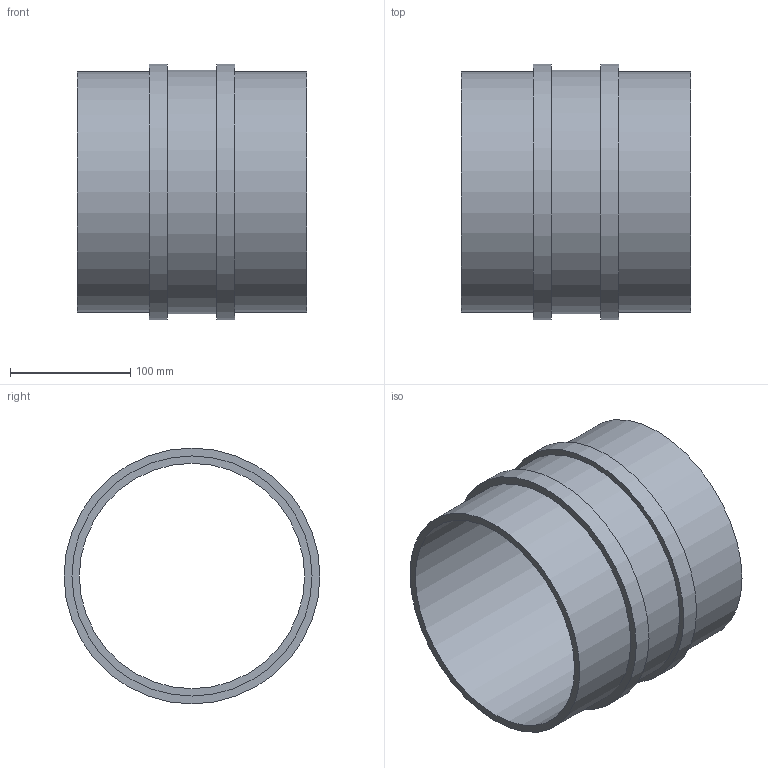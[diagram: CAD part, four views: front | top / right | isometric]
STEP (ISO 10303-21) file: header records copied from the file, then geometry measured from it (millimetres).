
FILE_DESCRIPTION(/* description */ (''),/* implementation_level */ '2;1');
FILE_NAME(/* name */ 'Z:\Geberit\Export\NewStep\370751.stp',/* time_stamp */ '2014-04-02T08:04:39+02:00',/* author */ ('nelson'),/* organization */ (''),/* preprocessor_version */ 'ST-DEVELOPER v15.2',/* originating_system */ 'Autodesk Inventor 2014',/* authorisation */ '');
FILE_SCHEMA (('AUTOMOTIVE_DESIGN { 1 0 10303 214 3 1 1 }'));
Length unit declared in the file: millimetre
Products named in the file (1): 370751
Bounding box: 191 x 213 x 213 mm (x, y, z)
Volume: 886424.6 mm3; surface area: 256706.5 mm2
Topology: 1 solids, 1 shells, 12 faces, 18 edges, 12 vertices
Faces by surface type: plane 6, cylinder 6
Full cylindrical faces by diameter (mm): 187.6 x1, 200 x2, 203 x1, 213 x2
Entity records: 269 total; most frequent: DIRECTION 50, CARTESIAN_POINT 37, AXIS2_PLACEMENT_3D 25, EDGE_LOOP 24, ORIENTED_EDGE 24, FACE_BOUND 15, CIRCLE 12, VERTEX_POINT 12
